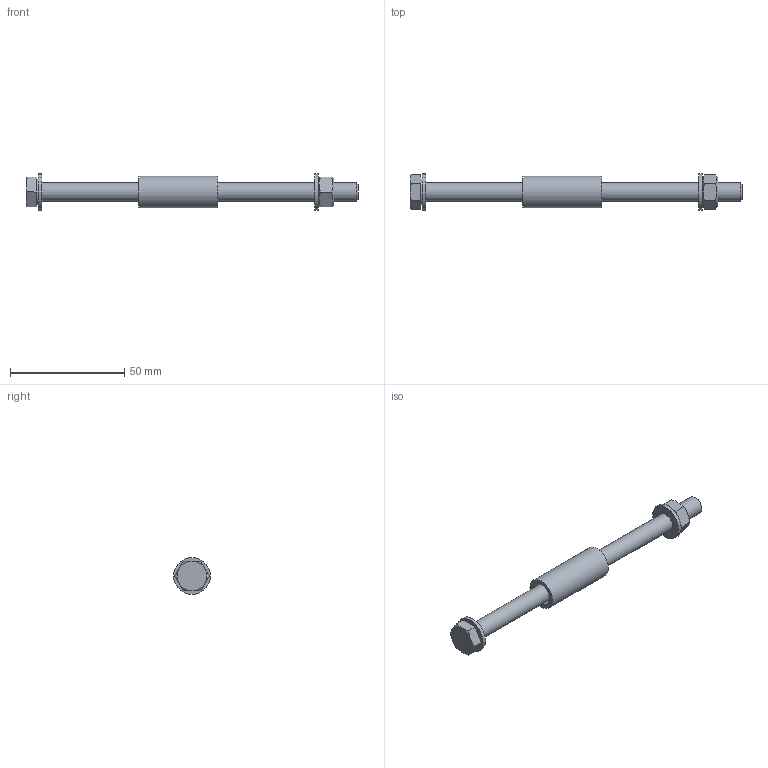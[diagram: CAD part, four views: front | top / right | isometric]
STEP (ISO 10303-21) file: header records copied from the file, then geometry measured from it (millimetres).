
FILE_DESCRIPTION((''),'2;1');
FILE_NAME('S:\Användarkataloger\AndreasA\Mina Inventor filer\Räcken\STEP\skarvdon_R7.stp','2010-09-07T13:54:18',('AndreasA'),(''),'Autodesk Inventor 2011','Autodesk Inventor 2011','');
FILE_SCHEMA(('AUTOMOTIVE_DESIGN { 1 0 10303 214 1 1 1 1 }'));
Length unit declared in the file: millimetre
Products named in the file (5): skarvdon_R7; rör_skarvdon_R7; SS 3576 8; M6S_8x140_A4; ISO 4032 M8
Assembly tree (5 placements, depth 2):
  skarvdon_R7
    rör_skarvdon_R7
    SS 3576 8  x2
    M6S_8x140_A4
    ISO 4032 M8
Bounding box: 145.3 x 16 x 16 mm (x, y, z)
Volume: 11580.8 mm3; surface area: 8231.7 mm2
Topology: 5 solids, 5 shells, 44 faces, 86 edges, 54 vertices
Faces by surface type: plane 24, cone 11, cylinder 9
Full cylindrical faces by diameter (mm): 6.647 x1, 8 x1, 8.4 x2, 10 x1, 11.63 x1, 14 x1, 16 x2
Entity records: 1105 total; most frequent: CARTESIAN_POINT 214, DIRECTION 168, ORIENTED_EDGE 134, AXIS2_PLACEMENT_3D 75, EDGE_CURVE 67, EDGE_LOOP 60, VERTEX_POINT 49, FACE_OUTER_BOUND 40
